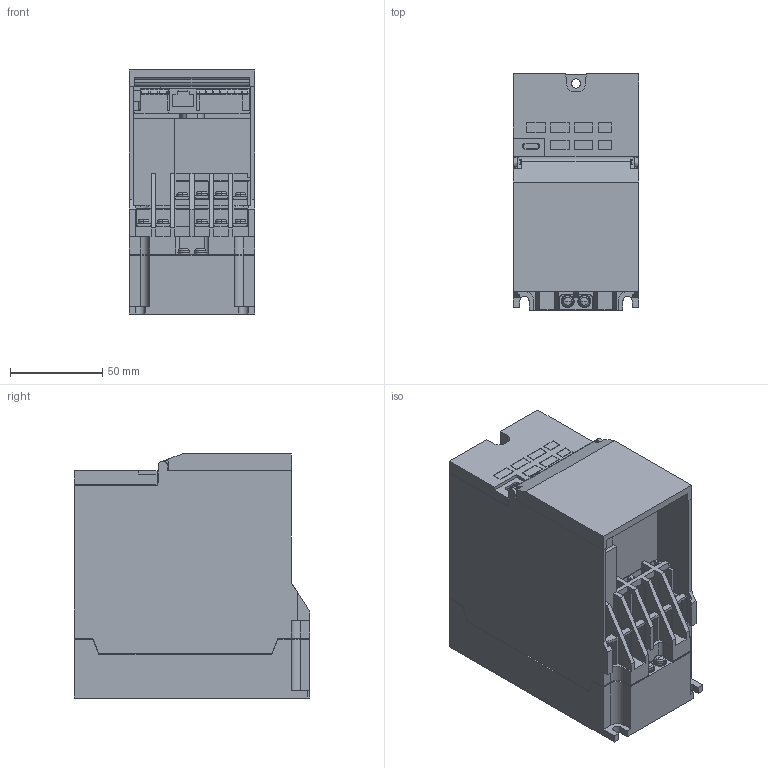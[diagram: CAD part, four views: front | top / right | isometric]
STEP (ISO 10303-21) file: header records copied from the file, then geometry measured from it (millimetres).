
FILE_DESCRIPTION((''),'2;1');
FILE_NAME('3D-INV-53_02_ASM','2024-11-27T16:16:39',('CT89920'),(''),'CREO PARAMETRIC BY PTC INC, 2022281','CREO PARAMETRIC BY PTC INC, 2022281','');
FILE_SCHEMA(('CONFIG_CONTROL_DESIGN','SHAPE_APPEARANCE_LAYERS_GROUPS'));
Length unit declared in the file: millimetre
Products named in the file (7): 3D-BASE-53_02E; 3D-TE_SHORT-51_01; 3D-TE_NEJI-M3_5X8-ZA7; 3D-TE-NEJI-53_01_ASM; 3D-SW-PW-P-M3_5X10; 3D-S_COV-D80-0_75; 3D-INV-53_02_ASM
Assembly tree (15 placements, depth 3):
  3D-INV-53_02_ASM
    3D-BASE-53_02E
    3D-TE-NEJI-53_01_ASM
      3D-TE_SHORT-51_01
      3D-TE_NEJI-M3_5X8-ZA7  x9
    3D-SW-PW-P-M3_5X10  x2
    3D-S_COV-D80-0_75
Bounding box: 68 x 128 x 132.5 mm (x, y, z)
Volume: 422619 mm3; surface area: 165819.3 mm2
Topology: 14 solids, 14 shells, 873 faces, 2362 edges, 1535 vertices
Faces by surface type: plane 712, cylinder 131, torus 22, cone 4, sphere 4
Entity records: 28880 total; most frequent: CARTESIAN_POINT 4253, ORIENTED_EDGE 4208, DIRECTION 3870, EDGE_CURVE 2104, VECTOR 1892, LINE 1892, VERTEX_POINT 1372, AXIS2_PLACEMENT_3D 989
